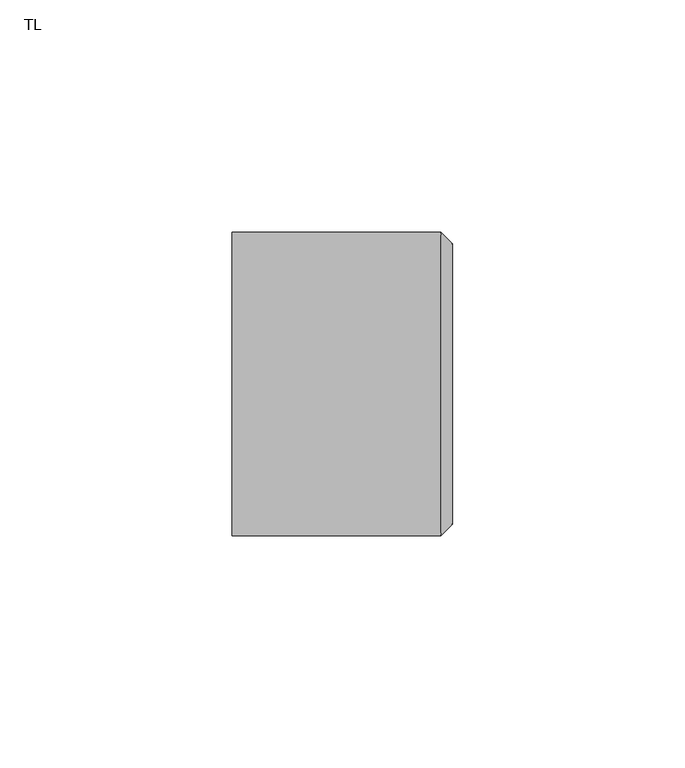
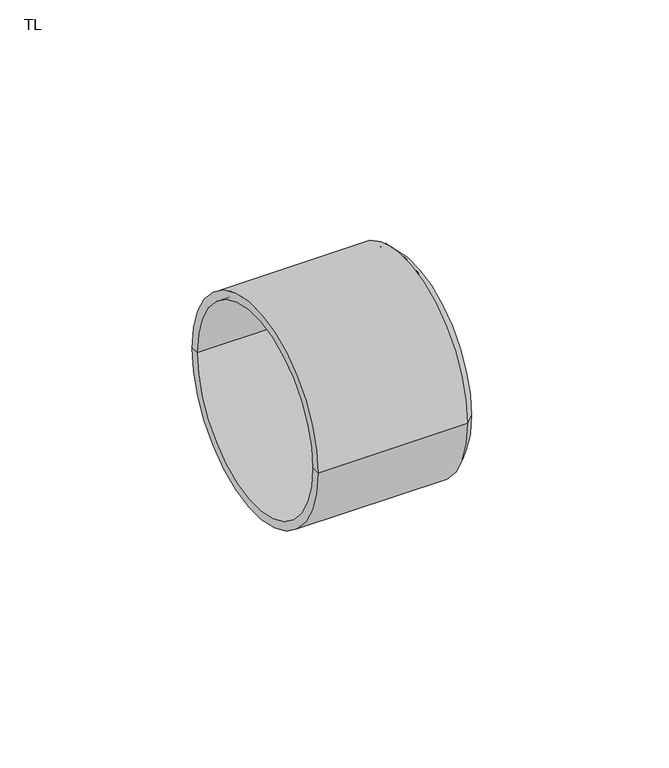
"""IFC4 building model written with IfcOpenShell, lengths in millimetres: cable carrier fitting geometry, PavcoWavin_ConduitFittings_ZnoUsarCampana : TL."""

from ifc_helpers import new_model, si_unit, frame, origin, place, context, project, spatial, polyline, circle_curve, source, transform, mapped, element, save
from ifc_brep_helpers import plane_surface, cylinder_surface, revolved_surface, advanced_brep


def tl_b9d03b8a(model_context):
    return source(origin(), model_context, "Body", "AdvancedBrep", [
        advanced_brep(
        [(-45.0, -30.16, 0.0), (-45.0, 30.16, 0.0), (-45.0, 32.7, 0.0), (-45.0, -32.7, 0.0), (2.54, -30.16, 0.0), (2.54, 30.16, 0.0), (0.0, -32.7, 0.0), (0.0, 32.7, 0.0)],
        [
            (0, 1, circle_curve(frame((-45.0, 0.0, 0.0), z_axis=(1.0, 0.0, 0.0), x_axis=(0.0, 1.0, 0.0)), 30.16)),
            (1, 2),
            (2, 3, circle_curve(frame((-45.0, 0.0, 0.0), z_axis=(-1.0, 0.0, 0.0), x_axis=(0.0, 1.0, 0.0)), 32.7)),
            (3, 0),
            (1, 0, circle_curve(frame((-45.0, 0.0, 0.0), z_axis=(1.0, 0.0, 0.0), x_axis=(0.0, 1.0, 0.0)), 30.16)),
            (3, 2, circle_curve(frame((-45.0, 0.0, 0.0), z_axis=(-1.0, 0.0, 0.0), x_axis=(0.0, 1.0, 0.0)), 32.7)),
            (4, 5, circle_curve(frame((2.54, 0.0, 0.0), z_axis=(1.0, 0.0, 0.0), x_axis=(0.0, 1.0, 0.0)), 30.16)),
            (5, 1),
            (0, 4),
            (5, 4, circle_curve(frame((2.54, 0.0, 0.0), z_axis=(1.0, 0.0, 0.0), x_axis=(0.0, 1.0, 0.0)), 30.16)),
            (6, 7, circle_curve(frame((0.0, 0.0, 0.0), z_axis=(1.0, 0.0, 0.0), x_axis=(0.0, 1.0, 0.0)), 32.7)),
            (7, 5),
            (4, 6),
            (7, 6, circle_curve(frame((0.0, 0.0, 0.0), z_axis=(1.0, 0.0, 0.0), x_axis=(0.0, 1.0, 0.0)), 32.7)),
            (2, 7),
            (6, 3),
        ],
        [
            plane_surface(frame((-45.0, 0.0, 0.0), z_axis=(-1.0, 0.0, 0.0), x_axis=(0.0, 1.0, 0.0))),
            revolved_surface(polyline([(-45.0, 30.16, 0.0), (2.5399999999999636, 30.16, 0.0)]), (1993.9380958, 0.0, 0.0), (-1.0, 0.0, 0.0)),
            revolved_surface(polyline([(2.54, 30.16, 0.0), (0.0, 32.7, 0.0)]), (1993.9380958, 0.0, 0.0), (-1.0, 0.0, 0.0)),
            cylinder_surface(frame((1993.9380958, 0.0, 0.0), z_axis=(-1.0, 0.0, 0.0), x_axis=(0.0, 1.0, 0.0)), 32.7),
        ],
        [
            (0, [[1, 2, 3, 4]]),
            (0, [[5, -4, 6, -2]]),
            (1, [[7, 8, -1, 9]]),
            (1, [[10, -9, -5, -8]]),
            (2, [[11, 12, -7, 13]]),
            (2, [[14, -13, -10, -12]]),
            (3, [[-3, 15, -11, 16]]),
            (3, [[-6, -16, -14, -15]]),
        ],
    ),
    ])


if __name__ == "__main__":
    model = new_model("IFC4")
    model_context = context("Model", 3, world=origin())
    ifc_project = project(units=[si_unit("LENGTHUNIT", "METRE", prefix="MILLI")], contexts=[model_context])
    site = spatial("IfcSite", under=ifc_project)
    building = spatial("IfcBuilding", under=site)
    placement = place(None, origin())
    tl_shape = tl_b9d03b8a(model_context)
    element("IfcCableCarrierFitting", 1, ObjectType="PavcoWavin_ConduitFittings_ZnoUsarCampana : TL", at=placement, inside=building, context=model_context, shape_type="MappedRepresentation", body=[
        mapped(tl_shape, transform((0.0, 0.0, 0.0), x_axis=(1.0, 0.0, 0.0), y_axis=(0.0, 1.0, 0.0), z_axis=(0.0, 0.0, 1.0))),
    ])
    save(model, "model.ifc")
